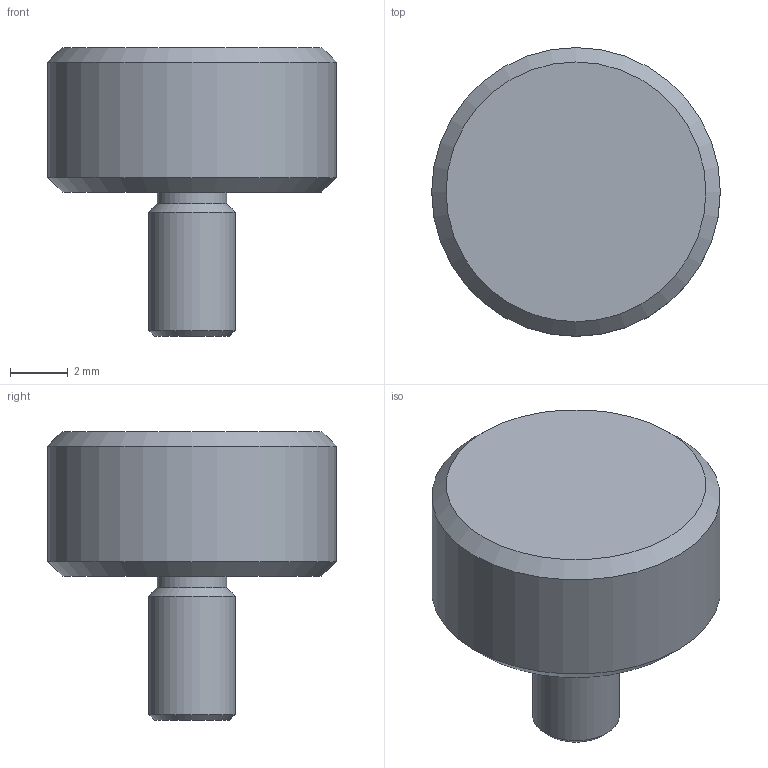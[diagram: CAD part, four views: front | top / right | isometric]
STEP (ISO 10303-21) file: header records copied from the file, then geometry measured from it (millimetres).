
FILE_DESCRIPTION(/* description */ (''),/* implementation_level */ '2;1');
FILE_NAME(/* name */ 'C:\Users\CAD2\Desktop\Nuova cartella\30.51.stp',/* time_stamp */ '2015-05-18T12:25:26+02:00',/* author */ ('CAD2'),/* organization */ (''),/* preprocessor_version */ 'ST-DEVELOPER v15.2',/* originating_system */ 'Autodesk Inventor 2014',/* authorisation */ '');
FILE_SCHEMA (('CONFIG_CONTROL_DESIGN'));
Length unit declared in the file: millimetre
Products named in the file (1): 30.51
Bounding box: 10 x 10 x 10 mm (x, y, z)
Volume: 418.9 mm3; surface area: 343.6 mm2
Topology: 1 solids, 1 shells, 10 faces, 17 edges, 10 vertices
Faces by surface type: cone 4, cylinder 3, plane 3
Full cylindrical faces by diameter (mm): 2.4 x1, 3 x1, 10 x1
Entity records: 218 total; most frequent: DIRECTION 40, CARTESIAN_POINT 29, AXIS2_PLACEMENT_3D 20, EDGE_LOOP 18, ORIENTED_EDGE 18, ADVANCED_FACE 10, FACE_BOUND 9, FACE_OUTER_BOUND 9
